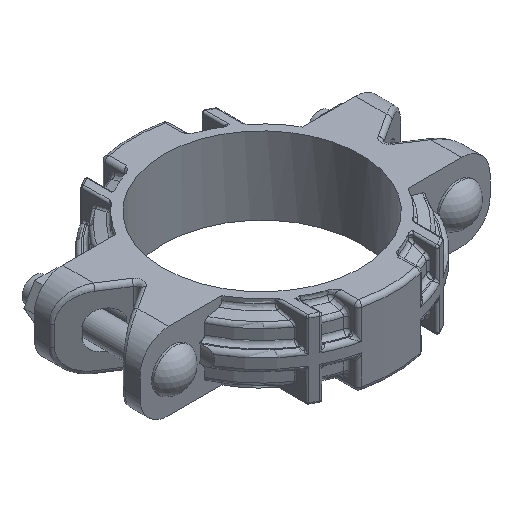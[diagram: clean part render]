
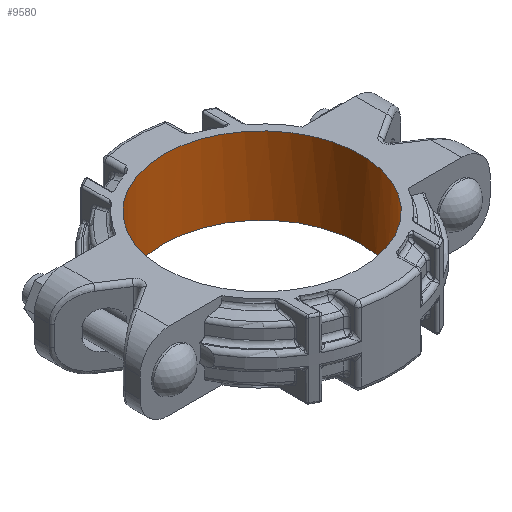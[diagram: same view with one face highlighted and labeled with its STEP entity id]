
A CAD part, isometric view. The second image highlights one B-rep face of the part: STEP entity #9580.
In plain terms, the highlighted cylindrical face has radius 77 mm (diameter 154 mm), a full revolution.
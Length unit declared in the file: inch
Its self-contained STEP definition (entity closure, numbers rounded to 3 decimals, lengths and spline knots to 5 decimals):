
#929=CYLINDRICAL_SURFACE('',#10591,3.0315);
#1516=FACE_OUTER_BOUND('',#2103,.T.);
#2103=EDGE_LOOP('',(#8225,#8226,#8227,#8228,#8229,#8230));
#2522=LINE('',#22709,#2929);
#2929=VECTOR('',#12991,3.0315);
#2999=CIRCLE('',#9727,3.0315);
#3000=CIRCLE('',#9728,3.0315);
#3032=CIRCLE('',#9787,3.0315);
#3033=CIRCLE('',#9788,3.0315);
#3629=VERTEX_POINT('',#13642);
#3630=VERTEX_POINT('',#13643);
#3704=VERTEX_POINT('',#14059);
#3705=VERTEX_POINT('',#14060);
#4461=EDGE_CURVE('',#3629,#3630,#2999,.T.);
#4462=EDGE_CURVE('',#3630,#3629,#3000,.T.);
#4556=EDGE_CURVE('',#3704,#3705,#3032,.T.);
#4557=EDGE_CURVE('',#3705,#3704,#3033,.T.);
#5632=EDGE_CURVE('',#3705,#3630,#2522,.T.);
#8225=ORIENTED_EDGE('',*,*,#4556,.T.);
#8226=ORIENTED_EDGE('',*,*,#5632,.T.);
#8227=ORIENTED_EDGE('',*,*,#4461,.F.);
#8228=ORIENTED_EDGE('',*,*,#4462,.F.);
#8229=ORIENTED_EDGE('',*,*,#5632,.F.);
#8230=ORIENTED_EDGE('',*,*,#4557,.T.);
#9580=ADVANCED_FACE('',(#1516),#929,.F.);
#9727=AXIS2_PLACEMENT_3D('',#13644,#10949,#10950);
#9728=AXIS2_PLACEMENT_3D('',#13645,#10951,#10952);
#9787=AXIS2_PLACEMENT_3D('',#14061,#11107,#11108);
#9788=AXIS2_PLACEMENT_3D('',#14062,#11109,#11110);
#10591=AXIS2_PLACEMENT_3D('',#22708,#12989,#12990);
#10949=DIRECTION('center_axis',(0.,0.,-1.));
#10950=DIRECTION('ref_axis',(1.,0.,0.));
#10951=DIRECTION('center_axis',(0.,0.,-1.));
#10952=DIRECTION('ref_axis',(1.,0.,0.));
#11107=DIRECTION('center_axis',(0.,0.,-1.));
#11108=DIRECTION('ref_axis',(-1.,0.,0.));
#11109=DIRECTION('center_axis',(0.,0.,-1.));
#11110=DIRECTION('ref_axis',(-1.,0.,0.));
#12989=DIRECTION('center_axis',(0.,0.,-1.));
#12990=DIRECTION('ref_axis',(0.,-1.,0.));
#12991=DIRECTION('',(0.,0.,1.));
#13642=CARTESIAN_POINT('',(2.55599,-1.63,1.19));
#13643=CARTESIAN_POINT('',(0.,3.0315,1.19));
#13644=CARTESIAN_POINT('Origin',(0.,0.,1.19));
#13645=CARTESIAN_POINT('Origin',(0.,0.,1.19));
#14059=CARTESIAN_POINT('',(-3.0315,0.,-1.19));
#14060=CARTESIAN_POINT('',(0.,3.0315,-1.19));
#14061=CARTESIAN_POINT('Origin',(0.,0.,-1.19));
#14062=CARTESIAN_POINT('Origin',(0.,0.,-1.19));
#22708=CARTESIAN_POINT('Origin',(0.,0.,0.));
#22709=CARTESIAN_POINT('',(0.,3.0315,0.));
